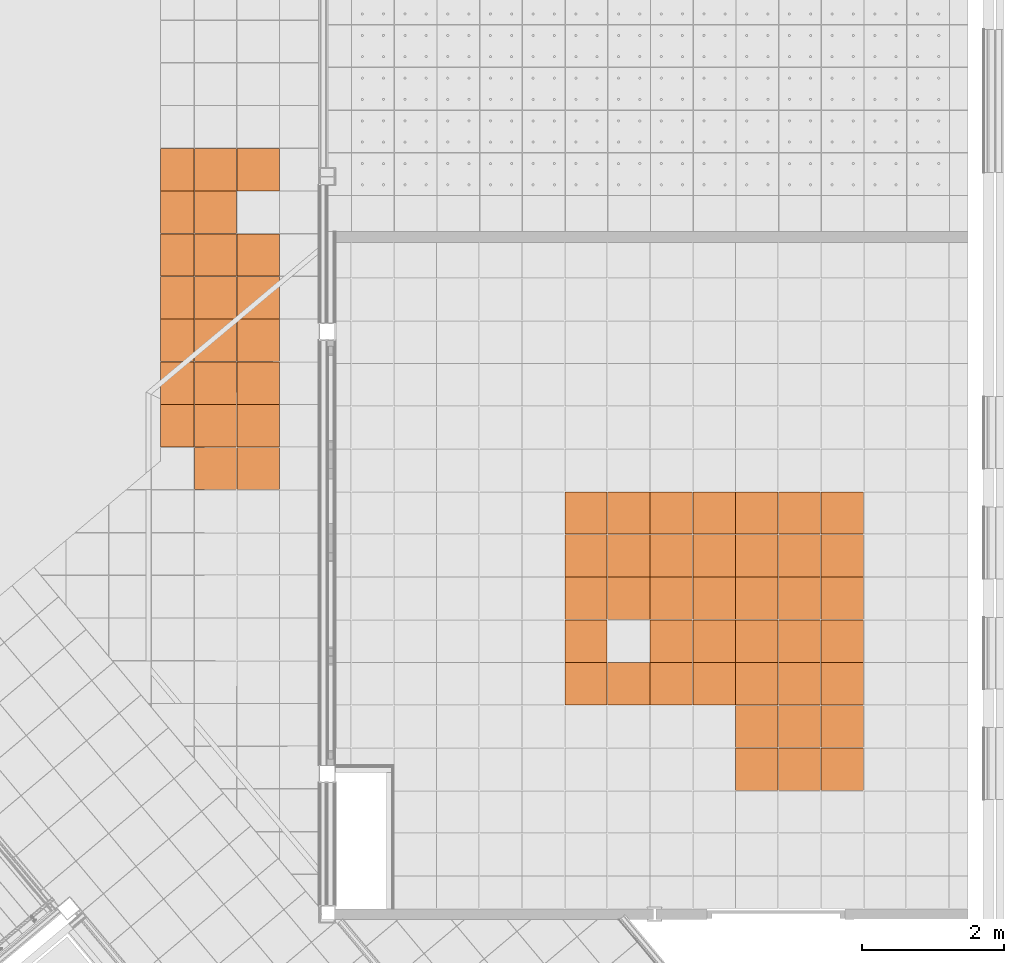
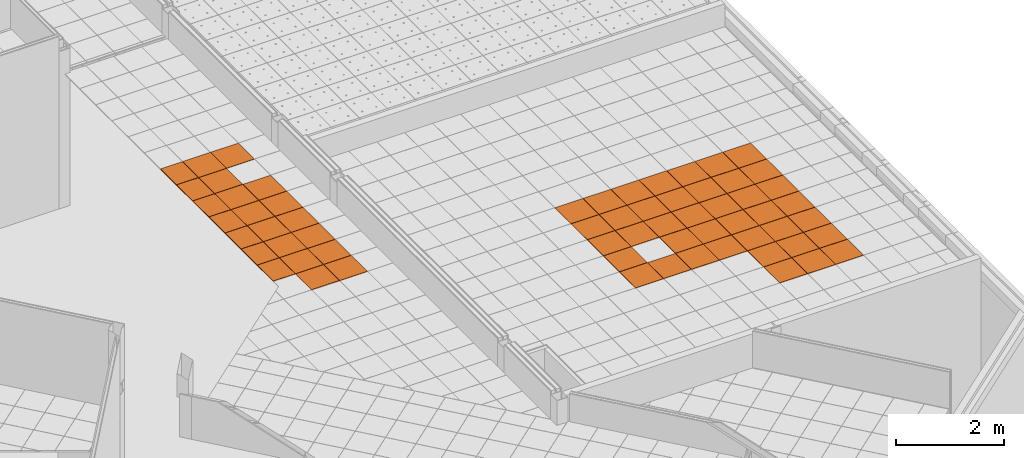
# One storey, part 217 of 338: 62 proxies, 2 elements without a shape of their own.
"""IFC2X3 building model written with IfcOpenShell, lengths in millimetres."""

from ifc_helpers import new_model, entity, si_unit, converted_unit, derived_unit, money_unit, direction, frame, origin_with_axes, place, context, subcontext, project, spatial, faceted_brep, source, transform, mapped, material, type_object, type_shapes, element, aggregate, save


model = new_model("IFC2X3")

# Units and contexts
model_context = context("Model", 3, precision=0.01, world=origin_with_axes(), true_north=direction((0.0, 1.0)))
plan_context = context("Plan", 3, precision=0.01, world=origin_with_axes(), true_north=direction((0.0, 1.0)))
body_context = subcontext(model_context, "Body", "Model", "MODEL_VIEW")
ifc_project = project(units=[si_unit("LENGTHUNIT", "METRE", prefix="MILLI"), si_unit("AREAUNIT", "SQUARE_METRE"), si_unit("VOLUMEUNIT", "CUBIC_METRE"), converted_unit("PLANEANGLEUNIT", "DEGREE", entity("IfcPlaneAngleMeasure", 0.0174532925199), si_unit("PLANEANGLEUNIT", "RADIAN"), dimensions=[0, 0, 0, 0, 0, 0, 0]), money_unit("EUR"), converted_unit("TIMEUNIT", "Year", entity("IfcTimeMeasure", 31556926.0), si_unit("TIMEUNIT", "SECOND"), dimensions=[0, 0, 1, 0, 0, 0, 0]), si_unit("MASSUNIT", "GRAM", prefix="KILO"), si_unit("THERMODYNAMICTEMPERATUREUNIT", "DEGREE_CELSIUS"), si_unit("LUMINOUSINTENSITYUNIT", "LUMEN"), si_unit("ENERGYUNIT", "JOULE", prefix="MEGA"), derived_unit("THERMALCONDUCTANCEUNIT", [(si_unit("POWERUNIT", "WATT"), 1), (si_unit("LENGTHUNIT", "METRE"), -1), (si_unit("THERMODYNAMICTEMPERATUREUNIT", "KELVIN"), -1)]), derived_unit("SPECIFICHEATCAPACITYUNIT", [(si_unit("ENERGYUNIT", "JOULE"), 1), (si_unit("MASSUNIT", "GRAM", prefix="KILO"), -1), (si_unit("THERMODYNAMICTEMPERATUREUNIT", "KELVIN"), -1)]), derived_unit("MASSDENSITYUNIT", [(si_unit("MASSUNIT", "GRAM", prefix="KILO"), 1), (si_unit("VOLUMEUNIT", "CUBIC_METRE"), -1)])], contexts=[model_context, plan_context])

# Site, building, storey
site_placement = place(None, origin_with_axes())
site = spatial("IfcSite", under=ifc_project, at=site_placement, Name="Fortuinstraat Woensdrecht", CompositionType="ELEMENT")
building_placement = place(site_placement, origin_with_axes())
building = spatial("IfcBuilding", under=site, at=building_placement, Name="IKC Fortuna", CompositionType="ELEMENT")
storey_placement = place(building_placement, origin_with_axes())
storey = spatial("IfcBuildingStorey", under=building, at=storey_placement, Name="00 begane grond", CompositionType="ELEMENT", Elevation=0.0)

# Covering, proxies
covering_type = type_object("IfcCoveringType", Name="Curtain Wall Type", PredefinedType="CEILING")
covering_1_placement = place(storey_placement, frame((34484.9342671, 3789.29664615, 3065.0), z_axis=(0.0, 0.0, 1.0), x_axis=(1.0, 0.0, 0.0)))
covering_1 = element("IfcCovering", 1, at=covering_1_placement, inside=storey, type_object=covering_type, Name="45_Plafondafwerking_P02 gec", PredefinedType="CEILING")
ifc_material = material(Name="Gipsplaat")
building_element_proxy_type_1 = type_object("IfcBuildingElementProxyType", Name="Distinct Panel 600 x 600 x 20", PredefinedType="NOTDEFINED")
shared_shape_1 = source(origin_with_axes(), body_context, "Body", "Brep", [
    faceted_brep([(-2.49999999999, 2.5, -10.0), (-2.49999999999, 2.5, 10.0), (-597.5, 2.49999999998, 10.0), (-597.5, 2.49999999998, -10.0), (-2.50000000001, 597.5, -10.0), (-2.50000000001, 597.5, 10.0), (-597.5, 597.5, 10.0), (-597.5, 597.5, -10.0)], [[[0, 1, 2, 3]], [[4, 5, 1, 0]], [[1, 5, 6, 2]], [[3, 2, 6, 7]], [[0, 3, 7, 4]], [[7, 6, 5, 4]]]),
])
type_shapes(building_element_proxy_type_1, [shared_shape_1])
proxy_1_placement = place(covering_1_placement, frame((-1634.49272604, 1800.0, 2.34479102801e-10), z_axis=(0.0, 0.0, 1.0), x_axis=(1.0, 0.0, 0.0)))
proxy_1 = element("IfcBuildingElementProxy", 2, at=proxy_1_placement, type_object=building_element_proxy_type_1, material=ifc_material, Name="__Panel-D", context=body_context, shape_type="MappedRepresentation", body=[
    mapped(shared_shape_1, transform((-300.0, 300.0, 0.0), x_axis=(-1.0, 0.0, 0.0), y_axis=(0.0, -1.0, 0.0), z_axis=(0.0, 0.0, 1.0))),
])
proxy_2_placement = place(covering_1_placement, frame((-2234.49272604, 1800.0, 2.14939177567e-10), z_axis=(0.0, 0.0, 1.0), x_axis=(1.0, 0.0, 0.0)))
proxy_2 = element("IfcBuildingElementProxy", 3, at=proxy_2_placement, type_object=building_element_proxy_type_1, material=ifc_material, Name="__Panel-D", context=body_context, shape_type="MappedRepresentation", body=[
    mapped(shared_shape_1, transform((-300.0, 300.0, 0.0), x_axis=(-1.0, 0.0, 0.0), y_axis=(0.0, -1.0, 0.0), z_axis=(0.0, 0.0, 1.0))),
])
proxy_3_placement = place(covering_1_placement, frame((-2834.49272604, 1800.0, 1.95399252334e-10), z_axis=(0.0, 0.0, 1.0), x_axis=(1.0, 0.0, 0.0)))
proxy_3 = element("IfcBuildingElementProxy", 4, at=proxy_3_placement, type_object=building_element_proxy_type_1, material=ifc_material, Name="__Panel-D", context=body_context, shape_type="MappedRepresentation", body=[
    mapped(shared_shape_1, transform((-300.0, 300.0, 0.0), x_axis=(-1.0, 0.0, 0.0), y_axis=(0.0, -1.0, 0.0), z_axis=(0.0, 0.0, 1.0))),
])
proxy_4_placement = place(covering_1_placement, frame((-3434.49272604, 1800.0, 1.75859327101e-10), z_axis=(0.0, 0.0, 1.0), x_axis=(1.0, 0.0, 0.0)))
proxy_4 = element("IfcBuildingElementProxy", 5, at=proxy_4_placement, type_object=building_element_proxy_type_1, material=ifc_material, Name="__Panel-D", context=body_context, shape_type="MappedRepresentation", body=[
    mapped(shared_shape_1, transform((-300.0, 300.0, 0.0), x_axis=(-1.0, 0.0, 0.0), y_axis=(0.0, -1.0, 0.0), z_axis=(0.0, 0.0, 1.0))),
])
proxy_5_placement = place(covering_1_placement, frame((-2834.49272604, 3600.0, 1.95399252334e-10), z_axis=(0.0, 0.0, 1.0), x_axis=(1.0, 0.0, 0.0)))
proxy_5 = element("IfcBuildingElementProxy", 6, at=proxy_5_placement, type_object=building_element_proxy_type_1, material=ifc_material, Name="__Panel-D", context=body_context, shape_type="MappedRepresentation", body=[
    mapped(shared_shape_1, transform((-300.0, 300.0, 0.0), x_axis=(-1.0, 0.0, 0.0), y_axis=(0.0, -1.0, 0.0), z_axis=(0.0, 0.0, 1.0))),
])
proxy_6_placement = place(covering_1_placement, frame((-2234.49272604, 3600.0, 2.14939177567e-10), z_axis=(0.0, 0.0, 1.0), x_axis=(1.0, 0.0, 0.0)))
proxy_6 = element("IfcBuildingElementProxy", 7, at=proxy_6_placement, type_object=building_element_proxy_type_1, material=ifc_material, Name="__Panel-D", context=body_context, shape_type="MappedRepresentation", body=[
    mapped(shared_shape_1, transform((-300.0, 300.0, 0.0), x_axis=(-1.0, 0.0, 0.0), y_axis=(0.0, -1.0, 0.0), z_axis=(0.0, 0.0, 1.0))),
])
proxy_7_placement = place(covering_1_placement, frame((-1634.49272604, 3600.0, 2.34479102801e-10), z_axis=(0.0, 0.0, 1.0), x_axis=(1.0, 0.0, 0.0)))
proxy_7 = element("IfcBuildingElementProxy", 8, at=proxy_7_placement, type_object=building_element_proxy_type_1, material=ifc_material, Name="__Panel-D", context=body_context, shape_type="MappedRepresentation", body=[
    mapped(shared_shape_1, transform((-300.0, 300.0, 0.0), x_axis=(-1.0, 0.0, 0.0), y_axis=(0.0, -1.0, 0.0), z_axis=(0.0, 0.0, 1.0))),
])
proxy_8_placement = place(covering_1_placement, frame((-1634.49272604, 3000.0, 2.34479102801e-10), z_axis=(0.0, 0.0, 1.0), x_axis=(1.0, 0.0, 0.0)))
proxy_8 = element("IfcBuildingElementProxy", 9, at=proxy_8_placement, type_object=building_element_proxy_type_1, material=ifc_material, Name="__Panel-D", context=body_context, shape_type="MappedRepresentation", body=[
    mapped(shared_shape_1, transform((-300.0, 300.0, 0.0), x_axis=(-1.0, 0.0, 0.0), y_axis=(0.0, -1.0, 0.0), z_axis=(0.0, 0.0, 1.0))),
])
proxy_9_placement = place(covering_1_placement, frame((-2234.49272604, 3000.0, 2.14939177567e-10), z_axis=(0.0, 0.0, 1.0), x_axis=(1.0, 0.0, 0.0)))
proxy_9 = element("IfcBuildingElementProxy", 10, at=proxy_9_placement, type_object=building_element_proxy_type_1, material=ifc_material, Name="__Panel-D", context=body_context, shape_type="MappedRepresentation", body=[
    mapped(shared_shape_1, transform((-300.0, 300.0, 0.0), x_axis=(-1.0, 0.0, 0.0), y_axis=(0.0, -1.0, 0.0), z_axis=(0.0, 0.0, 1.0))),
])
proxy_10_placement = place(covering_1_placement, frame((-2834.49272604, 3000.0, 1.95399252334e-10), z_axis=(0.0, 0.0, 1.0), x_axis=(1.0, 0.0, 0.0)))
proxy_10 = element("IfcBuildingElementProxy", 11, at=proxy_10_placement, type_object=building_element_proxy_type_1, material=ifc_material, Name="__Panel-D", context=body_context, shape_type="MappedRepresentation", body=[
    mapped(shared_shape_1, transform((-300.0, 300.0, 0.0), x_axis=(-1.0, 0.0, 0.0), y_axis=(0.0, -1.0, 0.0), z_axis=(0.0, 0.0, 1.0))),
])
proxy_11_placement = place(covering_1_placement, frame((-3434.49272604, 3000.0, 1.75859327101e-10), z_axis=(0.0, 0.0, 1.0), x_axis=(1.0, 0.0, 0.0)))
proxy_11 = element("IfcBuildingElementProxy", 12, at=proxy_11_placement, type_object=building_element_proxy_type_1, material=ifc_material, Name="__Panel-D", context=body_context, shape_type="MappedRepresentation", body=[
    mapped(shared_shape_1, transform((-300.0, 300.0, 0.0), x_axis=(-1.0, 0.0, 0.0), y_axis=(0.0, -1.0, 0.0), z_axis=(0.0, 0.0, 1.0))),
])
proxy_12_placement = place(covering_1_placement, frame((-3434.49272604, 3600.0, 1.75859327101e-10), z_axis=(0.0, 0.0, 1.0), x_axis=(1.0, 0.0, 0.0)))
proxy_12 = element("IfcBuildingElementProxy", 13, at=proxy_12_placement, type_object=building_element_proxy_type_1, material=ifc_material, Name="__Panel-D", context=body_context, shape_type="MappedRepresentation", body=[
    mapped(shared_shape_1, transform((-300.0, 300.0, 0.0), x_axis=(-1.0, 0.0, 0.0), y_axis=(0.0, -1.0, 0.0), z_axis=(0.0, 0.0, 1.0))),
])
proxy_13_placement = place(covering_1_placement, frame((-4034.49272604, 3600.0, 1.56319401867e-10), z_axis=(0.0, 0.0, 1.0), x_axis=(1.0, 0.0, 0.0)))
proxy_13 = element("IfcBuildingElementProxy", 14, at=proxy_13_placement, type_object=building_element_proxy_type_1, material=ifc_material, Name="__Panel-D", context=body_context, shape_type="MappedRepresentation", body=[
    mapped(shared_shape_1, transform((-300.0, 300.0, 0.0), x_axis=(-1.0, 0.0, 0.0), y_axis=(0.0, -1.0, 0.0), z_axis=(0.0, 0.0, 1.0))),
])
proxy_14_placement = place(covering_1_placement, frame((-4634.49272604, 3600.0, 1.37223565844e-10), z_axis=(0.0, 0.0, 1.0), x_axis=(1.0, 0.0, 0.0)))
proxy_14 = element("IfcBuildingElementProxy", 15, at=proxy_14_placement, type_object=building_element_proxy_type_1, material=ifc_material, Name="__Panel-D", context=body_context, shape_type="MappedRepresentation", body=[
    mapped(shared_shape_1, transform((-300.0, 300.0, 0.0), x_axis=(-1.0, 0.0, 0.0), y_axis=(0.0, -1.0, 0.0), z_axis=(0.0, 0.0, 1.0))),
])
proxy_15_placement = place(covering_1_placement, frame((-5234.49272604, 3600.0, 1.1768364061e-10), z_axis=(0.0, 0.0, 1.0), x_axis=(1.0, 0.0, 0.0)))
proxy_15 = element("IfcBuildingElementProxy", 16, at=proxy_15_placement, type_object=building_element_proxy_type_1, material=ifc_material, Name="__Panel-D", context=body_context, shape_type="MappedRepresentation", body=[
    mapped(shared_shape_1, transform((-300.0, 300.0, 0.0), x_axis=(-1.0, 0.0, 0.0), y_axis=(0.0, -1.0, 0.0), z_axis=(0.0, 0.0, 1.0))),
])
proxy_16_placement = place(covering_1_placement, frame((-5234.49272604, 3000.0, 1.1768364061e-10), z_axis=(0.0, 0.0, 1.0), x_axis=(1.0, 0.0, 0.0)))
proxy_16 = element("IfcBuildingElementProxy", 17, at=proxy_16_placement, type_object=building_element_proxy_type_1, material=ifc_material, Name="__Panel-D", context=body_context, shape_type="MappedRepresentation", body=[
    mapped(shared_shape_1, transform((-300.0, 300.0, 0.0), x_axis=(-1.0, 0.0, 0.0), y_axis=(0.0, -1.0, 0.0), z_axis=(0.0, 0.0, 1.0))),
])
proxy_17_placement = place(covering_1_placement, frame((-4634.49272604, 3000.0, 1.37223565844e-10), z_axis=(0.0, 0.0, 1.0), x_axis=(1.0, 0.0, 0.0)))
proxy_17 = element("IfcBuildingElementProxy", 18, at=proxy_17_placement, type_object=building_element_proxy_type_1, material=ifc_material, Name="__Panel-D", context=body_context, shape_type="MappedRepresentation", body=[
    mapped(shared_shape_1, transform((-300.0, 300.0, 0.0), x_axis=(-1.0, 0.0, 0.0), y_axis=(0.0, -1.0, 0.0), z_axis=(0.0, 0.0, 1.0))),
])
proxy_18_placement = place(covering_1_placement, frame((-4034.49272604, 3000.0, 1.56319401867e-10), z_axis=(0.0, 0.0, 1.0), x_axis=(1.0, 0.0, 0.0)))
proxy_18 = element("IfcBuildingElementProxy", 19, at=proxy_18_placement, type_object=building_element_proxy_type_1, material=ifc_material, Name="__Panel-D", context=body_context, shape_type="MappedRepresentation", body=[
    mapped(shared_shape_1, transform((-300.0, 300.0, 0.0), x_axis=(-1.0, 0.0, 0.0), y_axis=(0.0, -1.0, 0.0), z_axis=(0.0, 0.0, 1.0))),
])
proxy_19_placement = place(covering_1_placement, frame((-4034.49272604, 2400.0, 1.56319401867e-10), z_axis=(0.0, 0.0, 1.0), x_axis=(1.0, 0.0, 0.0)))
proxy_19 = element("IfcBuildingElementProxy", 20, at=proxy_19_placement, type_object=building_element_proxy_type_1, material=ifc_material, Name="__Panel-D", context=body_context, shape_type="MappedRepresentation", body=[
    mapped(shared_shape_1, transform((-300.0, 300.0, 0.0), x_axis=(-1.0, 0.0, 0.0), y_axis=(0.0, -1.0, 0.0), z_axis=(0.0, 0.0, 1.0))),
])
proxy_20_placement = place(covering_1_placement, frame((-3434.49272604, 2400.0, 1.75859327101e-10), z_axis=(0.0, 0.0, 1.0), x_axis=(1.0, 0.0, 0.0)))
proxy_20 = element("IfcBuildingElementProxy", 21, at=proxy_20_placement, type_object=building_element_proxy_type_1, material=ifc_material, Name="__Panel-D", context=body_context, shape_type="MappedRepresentation", body=[
    mapped(shared_shape_1, transform((-300.0, 300.0, 0.0), x_axis=(-1.0, 0.0, 0.0), y_axis=(0.0, -1.0, 0.0), z_axis=(0.0, 0.0, 1.0))),
])
proxy_21_placement = place(covering_1_placement, frame((-2834.49272604, 2400.0, 1.95399252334e-10), z_axis=(0.0, 0.0, 1.0), x_axis=(1.0, 0.0, 0.0)))
proxy_21 = element("IfcBuildingElementProxy", 22, at=proxy_21_placement, type_object=building_element_proxy_type_1, material=ifc_material, Name="__Panel-D", context=body_context, shape_type="MappedRepresentation", body=[
    mapped(shared_shape_1, transform((-300.0, 300.0, 0.0), x_axis=(-1.0, 0.0, 0.0), y_axis=(0.0, -1.0, 0.0), z_axis=(0.0, 0.0, 1.0))),
])
proxy_22_placement = place(covering_1_placement, frame((-2234.49272604, 2400.0, 2.14939177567e-10), z_axis=(0.0, 0.0, 1.0), x_axis=(1.0, 0.0, 0.0)))
proxy_22 = element("IfcBuildingElementProxy", 23, at=proxy_22_placement, type_object=building_element_proxy_type_1, material=ifc_material, Name="__Panel-D", context=body_context, shape_type="MappedRepresentation", body=[
    mapped(shared_shape_1, transform((-300.0, 300.0, 0.0), x_axis=(-1.0, 0.0, 0.0), y_axis=(0.0, -1.0, 0.0), z_axis=(0.0, 0.0, 1.0))),
])
proxy_23_placement = place(covering_1_placement, frame((-1634.49272604, 2400.0, 2.34479102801e-10), z_axis=(0.0, 0.0, 1.0), x_axis=(1.0, 0.0, 0.0)))
proxy_23 = element("IfcBuildingElementProxy", 24, at=proxy_23_placement, type_object=building_element_proxy_type_1, material=ifc_material, Name="__Panel-D", context=body_context, shape_type="MappedRepresentation", body=[
    mapped(shared_shape_1, transform((-300.0, 300.0, 0.0), x_axis=(-1.0, 0.0, 0.0), y_axis=(0.0, -1.0, 0.0), z_axis=(0.0, 0.0, 1.0))),
])
proxy_24_placement = place(covering_1_placement, frame((-1634.49272604, 1200.0, 2.34479102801e-10), z_axis=(0.0, 0.0, 1.0), x_axis=(1.0, 0.0, 0.0)))
proxy_24 = element("IfcBuildingElementProxy", 25, at=proxy_24_placement, type_object=building_element_proxy_type_1, material=ifc_material, Name="__Panel-D", context=body_context, shape_type="MappedRepresentation", body=[
    mapped(shared_shape_1, transform((-300.0, 300.0, 0.0), x_axis=(-1.0, 0.0, 0.0), y_axis=(0.0, -1.0, 0.0), z_axis=(0.0, 0.0, 1.0))),
])
proxy_25_placement = place(covering_1_placement, frame((-2234.49272604, 1200.0, 2.14939177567e-10), z_axis=(0.0, 0.0, 1.0), x_axis=(1.0, 0.0, 0.0)))
proxy_25 = element("IfcBuildingElementProxy", 26, at=proxy_25_placement, type_object=building_element_proxy_type_1, material=ifc_material, Name="__Panel-D", context=body_context, shape_type="MappedRepresentation", body=[
    mapped(shared_shape_1, transform((-300.0, 300.0, 0.0), x_axis=(-1.0, 0.0, 0.0), y_axis=(0.0, -1.0, 0.0), z_axis=(0.0, 0.0, 1.0))),
])
proxy_26_placement = place(covering_1_placement, frame((-2834.49272604, 1200.0, 1.95399252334e-10), z_axis=(0.0, 0.0, 1.0), x_axis=(1.0, 0.0, 0.0)))
proxy_26 = element("IfcBuildingElementProxy", 27, at=proxy_26_placement, type_object=building_element_proxy_type_1, material=ifc_material, Name="__Panel-D", context=body_context, shape_type="MappedRepresentation", body=[
    mapped(shared_shape_1, transform((-300.0, 300.0, 0.0), x_axis=(-1.0, 0.0, 0.0), y_axis=(0.0, -1.0, 0.0), z_axis=(0.0, 0.0, 1.0))),
])
proxy_27_placement = place(covering_1_placement, frame((-3434.49272604, 1200.0, 1.75859327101e-10), z_axis=(0.0, 0.0, 1.0), x_axis=(1.0, 0.0, 0.0)))
proxy_27 = element("IfcBuildingElementProxy", 28, at=proxy_27_placement, type_object=building_element_proxy_type_1, material=ifc_material, Name="__Panel-D", context=body_context, shape_type="MappedRepresentation", body=[
    mapped(shared_shape_1, transform((-300.0, 300.0, 0.0), x_axis=(-1.0, 0.0, 0.0), y_axis=(0.0, -1.0, 0.0), z_axis=(0.0, 0.0, 1.0))),
])
proxy_28_placement = place(covering_1_placement, frame((-4034.49272604, 1200.0, 1.56319401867e-10), z_axis=(0.0, 0.0, 1.0), x_axis=(1.0, 0.0, 0.0)))
proxy_28 = element("IfcBuildingElementProxy", 29, at=proxy_28_placement, type_object=building_element_proxy_type_1, material=ifc_material, Name="__Panel-D", context=body_context, shape_type="MappedRepresentation", body=[
    mapped(shared_shape_1, transform((-300.0, 300.0, 0.0), x_axis=(-1.0, 0.0, 0.0), y_axis=(0.0, -1.0, 0.0), z_axis=(0.0, 0.0, 1.0))),
])
proxy_29_placement = place(covering_1_placement, frame((-4034.49272604, 1800.0, 1.56319401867e-10), z_axis=(0.0, 0.0, 1.0), x_axis=(1.0, 0.0, 0.0)))
proxy_29 = element("IfcBuildingElementProxy", 30, at=proxy_29_placement, type_object=building_element_proxy_type_1, material=ifc_material, Name="__Panel-D", context=body_context, shape_type="MappedRepresentation", body=[
    mapped(shared_shape_1, transform((-300.0, 300.0, 0.0), x_axis=(-1.0, 0.0, 0.0), y_axis=(0.0, -1.0, 0.0), z_axis=(0.0, 0.0, 1.0))),
])
proxy_30_placement = place(covering_1_placement, frame((-4634.49272604, 2400.0, 1.37223565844e-10), z_axis=(0.0, 0.0, 1.0), x_axis=(1.0, 0.0, 0.0)))
proxy_30 = element("IfcBuildingElementProxy", 31, at=proxy_30_placement, type_object=building_element_proxy_type_1, material=ifc_material, Name="__Panel-D", context=body_context, shape_type="MappedRepresentation", body=[
    mapped(shared_shape_1, transform((-300.0, 300.0, 0.0), x_axis=(-1.0, 0.0, 0.0), y_axis=(0.0, -1.0, 0.0), z_axis=(0.0, 0.0, 1.0))),
])
proxy_31_placement = place(covering_1_placement, frame((-5234.49272604, 2400.0, 1.1768364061e-10), z_axis=(0.0, 0.0, 1.0), x_axis=(1.0, 0.0, 0.0)))
proxy_31 = element("IfcBuildingElementProxy", 32, at=proxy_31_placement, type_object=building_element_proxy_type_1, material=ifc_material, Name="__Panel-D", context=body_context, shape_type="MappedRepresentation", body=[
    mapped(shared_shape_1, transform((-300.0, 300.0, 0.0), x_axis=(-1.0, 0.0, 0.0), y_axis=(0.0, -1.0, 0.0), z_axis=(0.0, 0.0, 1.0))),
])
proxy_32_placement = place(covering_1_placement, frame((-5234.49272604, 1800.0, 1.1768364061e-10), z_axis=(0.0, 0.0, 1.0), x_axis=(1.0, 0.0, 0.0)))
proxy_32 = element("IfcBuildingElementProxy", 33, at=proxy_32_placement, type_object=building_element_proxy_type_1, material=ifc_material, Name="__Panel-D", context=body_context, shape_type="MappedRepresentation", body=[
    mapped(shared_shape_1, transform((-300.0, 300.0, 0.0), x_axis=(-1.0, 0.0, 0.0), y_axis=(0.0, -1.0, 0.0), z_axis=(0.0, 0.0, 1.0))),
])
proxy_33_placement = place(covering_1_placement, frame((-5234.49272604, 1200.0, 1.1768364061e-10), z_axis=(0.0, 0.0, 1.0), x_axis=(1.0, 0.0, 0.0)))
proxy_33 = element("IfcBuildingElementProxy", 34, at=proxy_33_placement, type_object=building_element_proxy_type_1, material=ifc_material, Name="__Panel-D", context=body_context, shape_type="MappedRepresentation", body=[
    mapped(shared_shape_1, transform((-300.0, 300.0, 0.0), x_axis=(-1.0, 0.0, 0.0), y_axis=(0.0, -1.0, 0.0), z_axis=(0.0, 0.0, 1.0))),
])
proxy_34_placement = place(covering_1_placement, frame((-4634.49272604, 1200.0, 1.37223565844e-10), z_axis=(0.0, 0.0, 1.0), x_axis=(1.0, 0.0, 0.0)))
proxy_34 = element("IfcBuildingElementProxy", 35, at=proxy_34_placement, type_object=building_element_proxy_type_1, material=ifc_material, Name="__Panel-D", context=body_context, shape_type="MappedRepresentation", body=[
    mapped(shared_shape_1, transform((-300.0, 300.0, 0.0), x_axis=(-1.0, 0.0, 0.0), y_axis=(0.0, -1.0, 0.0), z_axis=(0.0, 0.0, 1.0))),
])
proxy_35_placement = place(covering_1_placement, frame((-2834.49272604, 600.0, 1.95399252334e-10), z_axis=(0.0, 0.0, 1.0), x_axis=(1.0, 0.0, 0.0)))
proxy_35 = element("IfcBuildingElementProxy", 36, at=proxy_35_placement, type_object=building_element_proxy_type_1, material=ifc_material, Name="__Panel-D", context=body_context, shape_type="MappedRepresentation", body=[
    mapped(shared_shape_1, transform((-300.0, 300.0, 0.0), x_axis=(-1.0, 0.0, 0.0), y_axis=(0.0, -1.0, 0.0), z_axis=(0.0, 0.0, 1.0))),
])
proxy_36_placement = place(covering_1_placement, frame((-2234.49272604, 600.0, 2.14939177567e-10), z_axis=(0.0, 0.0, 1.0), x_axis=(1.0, 0.0, 0.0)))
proxy_36 = element("IfcBuildingElementProxy", 37, at=proxy_36_placement, type_object=building_element_proxy_type_1, material=ifc_material, Name="__Panel-D", context=body_context, shape_type="MappedRepresentation", body=[
    mapped(shared_shape_1, transform((-300.0, 300.0, 0.0), x_axis=(-1.0, 0.0, 0.0), y_axis=(0.0, -1.0, 0.0), z_axis=(0.0, 0.0, 1.0))),
])
proxy_37_placement = place(covering_1_placement, frame((-1634.49272604, 600.0, 2.34479102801e-10), z_axis=(0.0, 0.0, 1.0), x_axis=(1.0, 0.0, 0.0)))
proxy_37 = element("IfcBuildingElementProxy", 38, at=proxy_37_placement, type_object=building_element_proxy_type_1, material=ifc_material, Name="__Panel-D", context=body_context, shape_type="MappedRepresentation", body=[
    mapped(shared_shape_1, transform((-300.0, 300.0, 0.0), x_axis=(-1.0, 0.0, 0.0), y_axis=(0.0, -1.0, 0.0), z_axis=(0.0, 0.0, 1.0))),
])
proxy_38_placement = place(covering_1_placement, frame((-1634.49272604, 0.0, 2.34479102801e-10), z_axis=(0.0, 0.0, 1.0), x_axis=(1.0, 0.0, 0.0)))
proxy_38 = element("IfcBuildingElementProxy", 39, at=proxy_38_placement, type_object=building_element_proxy_type_1, material=ifc_material, Name="__Panel-D", context=body_context, shape_type="MappedRepresentation", body=[
    mapped(shared_shape_1, transform((-300.0, 300.0, 0.0), x_axis=(-1.0, 0.0, 0.0), y_axis=(0.0, -1.0, 0.0), z_axis=(0.0, 0.0, 1.0))),
])
proxy_39_placement = place(covering_1_placement, frame((-2234.49272604, 0.0, 2.14939177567e-10), z_axis=(0.0, 0.0, 1.0), x_axis=(1.0, 0.0, 0.0)))
proxy_39 = element("IfcBuildingElementProxy", 40, at=proxy_39_placement, type_object=building_element_proxy_type_1, material=ifc_material, Name="__Panel-D", context=body_context, shape_type="MappedRepresentation", body=[
    mapped(shared_shape_1, transform((-300.0, 300.0, 0.0), x_axis=(-1.0, 0.0, 0.0), y_axis=(0.0, -1.0, 0.0), z_axis=(0.0, 0.0, 1.0))),
])
proxy_40_placement = place(covering_1_placement, frame((-2834.49272604, 1.15463194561e-10, 1.95399252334e-10), z_axis=(0.0, 0.0, 1.0), x_axis=(1.0, 0.0, 0.0)))
proxy_40 = element("IfcBuildingElementProxy", 41, at=proxy_40_placement, type_object=building_element_proxy_type_1, material=ifc_material, Name="__Panel-D", context=body_context, shape_type="MappedRepresentation", body=[
    mapped(shared_shape_1, transform((-300.0, 300.0, 0.0), x_axis=(-1.0, 0.0, 0.0), y_axis=(0.0, -1.0, 0.0), z_axis=(0.0, 0.0, 1.0))),
])
aggregate(covering_1, [proxy_1, proxy_2, proxy_3, proxy_4, proxy_5, proxy_6, proxy_7, proxy_8, proxy_9, proxy_10, proxy_11, proxy_12, proxy_13, proxy_14, proxy_15, proxy_16, proxy_17, proxy_18, proxy_19, proxy_20, proxy_21, proxy_22, proxy_23, proxy_24, proxy_25, proxy_26, proxy_27, proxy_28, proxy_29, proxy_30, proxy_31, proxy_32, proxy_33, proxy_34, proxy_35, proxy_36, proxy_37, proxy_38, proxy_39, proxy_40])

covering_2_placement = place(storey_placement, frame((23508.1808374, 14013.4616156, 3010.0), z_axis=(0.0, 0.0, 1.0), x_axis=(1.0, 0.0, 0.0)))
covering_2 = element("IfcCovering", 42, at=covering_2_placement, inside=storey, type_object=covering_type, Name="45_Plafondafwerking_P04", PredefinedType="CEILING")
proxy_41_placement = place(covering_2_placement, frame((536.745764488, -1800.0, 0.0), z_axis=(0.0, 0.0, 1.0), x_axis=(1.0, 0.0, 0.0)))
proxy_41 = element("IfcBuildingElementProxy", 43, at=proxy_41_placement, type_object=building_element_proxy_type_1, material=ifc_material, Name="__Panel-D", context=body_context, shape_type="MappedRepresentation", body=[
    mapped(shared_shape_1, transform((-300.0, 300.0, 0.0), x_axis=(-1.0, 0.0, 0.0), y_axis=(0.0, -1.0, 0.0), z_axis=(0.0, 0.0, 1.0))),
])
proxy_42_placement = place(covering_2_placement, frame((536.745764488, -2400.0, 0.0), z_axis=(0.0, 0.0, 1.0), x_axis=(1.0, 0.0, 0.0)))
proxy_42 = element("IfcBuildingElementProxy", 44, at=proxy_42_placement, type_object=building_element_proxy_type_1, material=ifc_material, Name="__Panel-D", context=body_context, shape_type="MappedRepresentation", body=[
    mapped(shared_shape_1, transform((-300.0, 300.0, 0.0), x_axis=(-1.0, 0.0, 0.0), y_axis=(0.0, -1.0, 0.0), z_axis=(0.0, 0.0, 1.0))),
])
proxy_43_placement = place(covering_2_placement, frame((536.745764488, -3000.0, 0.0), z_axis=(0.0, 0.0, 1.0), x_axis=(1.0, 0.0, 0.0)))
proxy_43 = element("IfcBuildingElementProxy", 45, at=proxy_43_placement, type_object=building_element_proxy_type_1, material=ifc_material, Name="__Panel-D", context=body_context, shape_type="MappedRepresentation", body=[
    mapped(shared_shape_1, transform((-300.0, 300.0, 0.0), x_axis=(-1.0, 0.0, 0.0), y_axis=(0.0, -1.0, 0.0), z_axis=(0.0, 0.0, 1.0))),
])
proxy_44_placement = place(covering_2_placement, frame((536.745764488, -3600.0, 0.0), z_axis=(0.0, 0.0, 1.0), x_axis=(1.0, 0.0, 0.0)))
proxy_44 = element("IfcBuildingElementProxy", 46, at=proxy_44_placement, type_object=building_element_proxy_type_1, material=ifc_material, Name="__Panel-D", context=body_context, shape_type="MappedRepresentation", body=[
    mapped(shared_shape_1, transform((-300.0, 300.0, 0.0), x_axis=(-1.0, 0.0, 0.0), y_axis=(0.0, -1.0, 0.0), z_axis=(0.0, 0.0, 1.0))),
])
proxy_45_placement = place(covering_2_placement, frame((536.745764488, -4200.0, 0.0), z_axis=(0.0, 0.0, 1.0), x_axis=(1.0, 0.0, 0.0)))
proxy_45 = element("IfcBuildingElementProxy", 47, at=proxy_45_placement, type_object=building_element_proxy_type_1, material=ifc_material, Name="__Panel-D", context=body_context, shape_type="MappedRepresentation", body=[
    mapped(shared_shape_1, transform((-300.0, 300.0, 0.0), x_axis=(-1.0, 0.0, 0.0), y_axis=(0.0, -1.0, 0.0), z_axis=(0.0, 0.0, 1.0))),
])
proxy_46_placement = place(covering_2_placement, frame((536.745764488, -4800.0, 0.0), z_axis=(0.0, 0.0, 1.0), x_axis=(1.0, 0.0, 0.0)))
proxy_46 = element("IfcBuildingElementProxy", 48, at=proxy_46_placement, type_object=building_element_proxy_type_1, material=ifc_material, Name="__Panel-D", context=body_context, shape_type="MappedRepresentation", body=[
    mapped(shared_shape_1, transform((-300.0, 300.0, 0.0), x_axis=(-1.0, 0.0, 0.0), y_axis=(0.0, -1.0, 0.0), z_axis=(0.0, 0.0, 1.0))),
])
proxy_47_placement = place(covering_2_placement, frame((536.745764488, -5400.0, 0.0), z_axis=(0.0, 0.0, 1.0), x_axis=(1.0, 0.0, 0.0)))
proxy_47 = element("IfcBuildingElementProxy", 49, at=proxy_47_placement, type_object=building_element_proxy_type_1, material=ifc_material, Name="__Panel-D", context=body_context, shape_type="MappedRepresentation", body=[
    mapped(shared_shape_1, transform((-300.0, 300.0, 0.0), x_axis=(-1.0, 0.0, 0.0), y_axis=(0.0, -1.0, 0.0), z_axis=(0.0, 0.0, 1.0))),
])
proxy_48_placement = place(covering_2_placement, frame((536.745764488, -6000.0, 0.0), z_axis=(0.0, 0.0, 1.0), x_axis=(1.0, 0.0, 0.0)))
proxy_48 = element("IfcBuildingElementProxy", 50, at=proxy_48_placement, type_object=building_element_proxy_type_1, material=ifc_material, Name="__Panel-D", context=body_context, shape_type="MappedRepresentation", body=[
    mapped(shared_shape_1, transform((-300.0, 300.0, 0.0), x_axis=(-1.0, 0.0, 0.0), y_axis=(0.0, -1.0, 0.0), z_axis=(0.0, 0.0, 1.0))),
])
proxy_49_placement = place(covering_2_placement, frame((1136.74576449, -1800.0, 1.03916875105e-10), z_axis=(0.0, 0.0, 1.0), x_axis=(1.0, 0.0, 0.0)))
proxy_49 = element("IfcBuildingElementProxy", 51, at=proxy_49_placement, type_object=building_element_proxy_type_1, material=ifc_material, Name="__Panel-D", context=body_context, shape_type="MappedRepresentation", body=[
    mapped(shared_shape_1, transform((-300.0, 300.0, 0.0), x_axis=(-1.0, 0.0, 0.0), y_axis=(0.0, -1.0, 0.0), z_axis=(0.0, 0.0, 1.0))),
])
proxy_50_placement = place(covering_2_placement, frame((1136.74576449, -3000.0, 1.03916875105e-10), z_axis=(0.0, 0.0, 1.0), x_axis=(1.0, 0.0, 0.0)))
proxy_50 = element("IfcBuildingElementProxy", 52, at=proxy_50_placement, type_object=building_element_proxy_type_1, material=ifc_material, Name="__Panel-D", context=body_context, shape_type="MappedRepresentation", body=[
    mapped(shared_shape_1, transform((-300.0, 300.0, 0.0), x_axis=(-1.0, 0.0, 0.0), y_axis=(0.0, -1.0, 0.0), z_axis=(0.0, 0.0, 1.0))),
])
proxy_51_placement = place(covering_2_placement, frame((1136.74576449, -3600.0, 1.03916875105e-10), z_axis=(0.0, 0.0, 1.0), x_axis=(1.0, 0.0, 0.0)))
proxy_51 = element("IfcBuildingElementProxy", 53, at=proxy_51_placement, type_object=building_element_proxy_type_1, material=ifc_material, Name="__Panel-D", context=body_context, shape_type="MappedRepresentation", body=[
    mapped(shared_shape_1, transform((-300.0, 300.0, 0.0), x_axis=(-1.0, 0.0, 0.0), y_axis=(0.0, -1.0, 0.0), z_axis=(0.0, 0.0, 1.0))),
])
proxy_52_placement = place(covering_2_placement, frame((1136.74576449, -4200.0, 1.03916875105e-10), z_axis=(0.0, 0.0, 1.0), x_axis=(1.0, 0.0, 0.0)))
proxy_52 = element("IfcBuildingElementProxy", 54, at=proxy_52_placement, type_object=building_element_proxy_type_1, material=ifc_material, Name="__Panel-D", context=body_context, shape_type="MappedRepresentation", body=[
    mapped(shared_shape_1, transform((-300.0, 300.0, 0.0), x_axis=(-1.0, 0.0, 0.0), y_axis=(0.0, -1.0, 0.0), z_axis=(0.0, 0.0, 1.0))),
])
proxy_53_placement = place(covering_2_placement, frame((1136.74576449, -4800.0, 1.03916875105e-10), z_axis=(0.0, 0.0, 1.0), x_axis=(1.0, 0.0, 0.0)))
proxy_53 = element("IfcBuildingElementProxy", 55, at=proxy_53_placement, type_object=building_element_proxy_type_1, material=ifc_material, Name="__Panel-D", context=body_context, shape_type="MappedRepresentation", body=[
    mapped(shared_shape_1, transform((-300.0, 300.0, 0.0), x_axis=(-1.0, 0.0, 0.0), y_axis=(0.0, -1.0, 0.0), z_axis=(0.0, 0.0, 1.0))),
])
proxy_54_placement = place(covering_2_placement, frame((1136.74576449, -5400.0, 1.03916875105e-10), z_axis=(0.0, 0.0, 1.0), x_axis=(1.0, 0.0, 0.0)))
proxy_54 = element("IfcBuildingElementProxy", 56, at=proxy_54_placement, type_object=building_element_proxy_type_1, material=ifc_material, Name="__Panel-D", context=body_context, shape_type="MappedRepresentation", body=[
    mapped(shared_shape_1, transform((-300.0, 300.0, 0.0), x_axis=(-1.0, 0.0, 0.0), y_axis=(0.0, -1.0, 0.0), z_axis=(0.0, 0.0, 1.0))),
])
proxy_55_placement = place(covering_2_placement, frame((1136.74576449, -6000.0, 1.03916875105e-10), z_axis=(0.0, 0.0, 1.0), x_axis=(1.0, 0.0, 0.0)))
proxy_55 = element("IfcBuildingElementProxy", 57, at=proxy_55_placement, type_object=building_element_proxy_type_1, material=ifc_material, Name="__Panel-D", context=body_context, shape_type="MappedRepresentation", body=[
    mapped(shared_shape_1, transform((-300.0, 300.0, 0.0), x_axis=(-1.0, 0.0, 0.0), y_axis=(0.0, -1.0, 0.0), z_axis=(0.0, 0.0, 1.0))),
])
building_element_proxy_type_2 = type_object("IfcBuildingElementProxyType", Name="Distinct Panel 473 x 600 x 20", PredefinedType="NOTDEFINED")
shared_shape_2 = source(origin_with_axes(), body_context, "Body", "Brep", [
    faceted_brep([(-129.008466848, 2.5, -10.0), (-129.008466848, 2.5, 10.0), (-597.5, 2.49999999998, 10.0), (-597.5, 2.49999999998, -10.0), (-129.008466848, 597.5, -10.0), (-129.008466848, 597.5, 10.0), (-597.5, 597.5, 10.0), (-597.5, 597.5, -10.0)], [[[0, 1, 2, 3]], [[4, 5, 1, 0]], [[1, 5, 6, 2]], [[3, 2, 6, 7]], [[0, 3, 7, 4]], [[7, 6, 5, 4]]]),
])
proxy_56_placement = place(covering_2_placement, frame((0.000106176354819, -5400.0, 0.0), z_axis=(0.0, 0.0, 1.0), x_axis=(1.0, 0.0, 0.0)))
proxy_56 = element("IfcBuildingElementProxy", 58, at=proxy_56_placement, type_object=building_element_proxy_type_2, material=ifc_material, Name="__Panel-D", context=body_context, shape_type="MappedRepresentation", body=[
    mapped(shared_shape_2, transform((-363.254341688, 300.0, 0.0), x_axis=(-1.0, 0.0, 0.0), y_axis=(0.0, -1.0, 0.0), z_axis=(0.0, 0.0, 1.0))),
])
proxy_57_placement = place(covering_2_placement, frame((0.00010617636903, -4800.0, 0.0), z_axis=(0.0, 0.0, 1.0), x_axis=(1.0, 0.0, 0.0)))
proxy_57 = element("IfcBuildingElementProxy", 59, at=proxy_57_placement, type_object=building_element_proxy_type_2, material=ifc_material, Name="__Panel-D", context=body_context, shape_type="MappedRepresentation", body=[
    mapped(shared_shape_2, transform((-363.254341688, 300.0, 0.0), x_axis=(-1.0, 0.0, 0.0), y_axis=(0.0, -1.0, 0.0), z_axis=(0.0, 0.0, 1.0))),
])
proxy_58_placement = place(covering_2_placement, frame((0.000106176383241, -4200.0, 0.0), z_axis=(0.0, 0.0, 1.0), x_axis=(1.0, 0.0, 0.0)))
proxy_58 = element("IfcBuildingElementProxy", 60, at=proxy_58_placement, type_object=building_element_proxy_type_2, material=ifc_material, Name="__Panel-D", context=body_context, shape_type="MappedRepresentation", body=[
    mapped(shared_shape_2, transform((-363.254341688, 300.0, 0.0), x_axis=(-1.0, 0.0, 0.0), y_axis=(0.0, -1.0, 0.0), z_axis=(0.0, 0.0, 1.0))),
])
proxy_59_placement = place(covering_2_placement, frame((0.000106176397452, -3600.0, 0.0), z_axis=(0.0, 0.0, 1.0), x_axis=(1.0, 0.0, 0.0)))
proxy_59 = element("IfcBuildingElementProxy", 61, at=proxy_59_placement, type_object=building_element_proxy_type_2, material=ifc_material, Name="__Panel-D", context=body_context, shape_type="MappedRepresentation", body=[
    mapped(shared_shape_2, transform((-363.254341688, 300.0, 0.0), x_axis=(-1.0, 0.0, 0.0), y_axis=(0.0, -1.0, 0.0), z_axis=(0.0, 0.0, 1.0))),
])
proxy_60_placement = place(covering_2_placement, frame((0.000106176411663, -3000.0, 0.0), z_axis=(0.0, 0.0, 1.0), x_axis=(1.0, 0.0, 0.0)))
proxy_60 = element("IfcBuildingElementProxy", 62, at=proxy_60_placement, type_object=building_element_proxy_type_2, material=ifc_material, Name="__Panel-D", context=body_context, shape_type="MappedRepresentation", body=[
    mapped(shared_shape_2, transform((-363.254341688, 300.0, 0.0), x_axis=(-1.0, 0.0, 0.0), y_axis=(0.0, -1.0, 0.0), z_axis=(0.0, 0.0, 1.0))),
])
shared_shape_3 = source(origin_with_axes(), body_context, "Body", "Brep", [
    faceted_brep([(-129.008413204, 2.5, -10.0), (-129.008413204, 2.5, 10.0), (-597.5, 2.49999999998, 10.0), (-597.5, 2.49999999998, -10.0), (-129.008466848, 597.5, -10.0), (-129.008466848, 597.5, 10.0), (-597.5, 597.5, 10.0), (-597.5, 597.5, -10.0)], [[[0, 1, 2, 3]], [[4, 5, 1, 0]], [[1, 5, 6, 2]], [[3, 2, 6, 7]], [[0, 3, 7, 4]], [[7, 6, 5, 4]]]),
])
type_shapes(building_element_proxy_type_2, [shared_shape_2, shared_shape_3])
proxy_61_placement = place(covering_2_placement, frame((0.000106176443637, -1800.0, 0.0), z_axis=(0.0, 0.0, 1.0), x_axis=(1.0, 0.0, 0.0)))
proxy_61 = element("IfcBuildingElementProxy", 63, at=proxy_61_placement, type_object=building_element_proxy_type_2, material=ifc_material, Name="__Panel-D", context=body_context, shape_type="MappedRepresentation", body=[
    mapped(shared_shape_3, transform((-363.254341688, 300.0, 0.0), x_axis=(-1.0, 0.0, 0.0), y_axis=(0.0, -1.0, 0.0), z_axis=(0.0, 0.0, 1.0))),
])
proxy_62_placement = place(covering_2_placement, frame((0.000106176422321, -2400.0, 0.0), z_axis=(0.0, 0.0, 1.0), x_axis=(1.0, 0.0, 0.0)))
proxy_62 = element("IfcBuildingElementProxy", 64, at=proxy_62_placement, type_object=building_element_proxy_type_2, material=ifc_material, Name="__Panel-D", context=body_context, shape_type="MappedRepresentation", body=[
    mapped(shared_shape_3, transform((-363.254341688, 300.0, 0.0), x_axis=(-1.0, 0.0, 0.0), y_axis=(0.0, -1.0, 0.0), z_axis=(0.0, 0.0, 1.0))),
])
aggregate(covering_2, [proxy_61, proxy_62, proxy_56, proxy_57, proxy_58, proxy_41, proxy_42, proxy_43, proxy_44, proxy_45, proxy_46, proxy_47, proxy_48, proxy_49, proxy_50, proxy_51, proxy_52, proxy_53, proxy_54, proxy_55, proxy_59, proxy_60])

save(model, "model.ifc")
